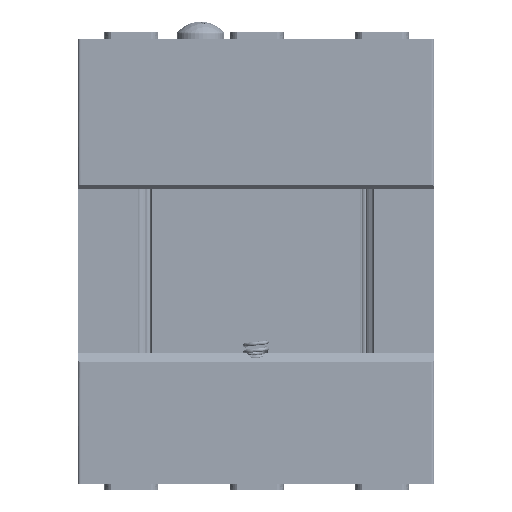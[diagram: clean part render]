
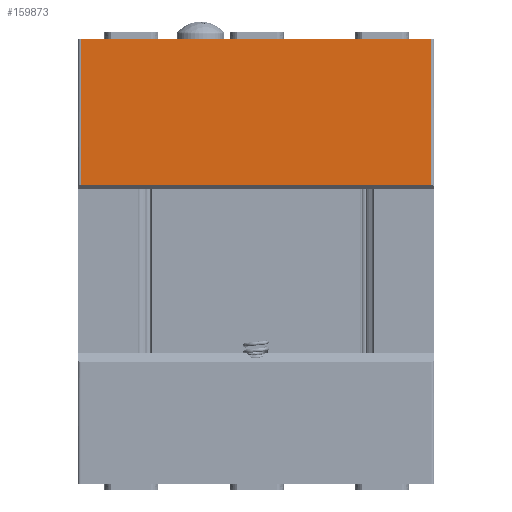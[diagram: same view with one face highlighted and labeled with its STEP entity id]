
A CAD part, front view. The second image highlights one B-rep face of the part: STEP entity #159873.
In plain terms, the highlighted planar face has unit normal (0, -1, 0).
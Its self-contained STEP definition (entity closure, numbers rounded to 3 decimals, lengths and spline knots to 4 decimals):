
#17642=FACE_OUTER_BOUND('',#26428,.T.);
#26428=EDGE_LOOP('',(#143304,#143305,#143306,#143307));
#43983=LINE('',#284963,#61705);
#44100=LINE('',#285773,#61822);
#44109=LINE('',#285792,#61831);
#44110=LINE('',#285794,#61832);
#61705=VECTOR('',#211731,0.3937);
#61822=VECTOR('',#212484,0.3937);
#61831=VECTOR('',#212505,0.3937);
#61832=VECTOR('',#212508,0.3937);
#76563=VERTEX_POINT('',#284960);
#76564=VERTEX_POINT('',#284962);
#76938=VERTEX_POINT('',#285770);
#76939=VERTEX_POINT('',#285772);
#98843=EDGE_CURVE('',#76563,#76564,#43983,.T.);
#99248=EDGE_CURVE('',#76939,#76938,#44100,.T.);
#99259=EDGE_CURVE('',#76939,#76563,#44109,.T.);
#99260=EDGE_CURVE('',#76564,#76938,#44110,.T.);
#143304=ORIENTED_EDGE('',*,*,#99248,.T.);
#143305=ORIENTED_EDGE('',*,*,#99260,.F.);
#143306=ORIENTED_EDGE('',*,*,#98843,.F.);
#143307=ORIENTED_EDGE('',*,*,#99259,.F.);
#152142=PLANE('',#172097);
#159873=ADVANCED_FACE('',(#17642),#152142,.T.);
#172097=AXIS2_PLACEMENT_3D('',#285793,#212506,#212507);
#211731=DIRECTION('',(1.,0.,0.));
#212484=DIRECTION('',(1.,0.,0.));
#212505=DIRECTION('',(0.,0.,1.));
#212506=DIRECTION('center_axis',(0.,-1.,0.));
#212507=DIRECTION('ref_axis',(1.,0.,0.));
#212508=DIRECTION('',(0.,0.,-1.));
#284960=CARTESIAN_POINT('',(0.02,0.,3.5));
#284962=CARTESIAN_POINT('',(2.78,0.,3.5));
#284963=CARTESIAN_POINT('',(0.,0.,3.5));
#285770=CARTESIAN_POINT('',(2.78,0.,2.351));
#285772=CARTESIAN_POINT('',(0.02,0.,2.351));
#285773=CARTESIAN_POINT('',(1.4,0.,2.351));
#285792=CARTESIAN_POINT('',(0.02,0.,0.));
#285793=CARTESIAN_POINT('Origin',(0.,0.,0.));
#285794=CARTESIAN_POINT('',(2.78,0.,0.));
